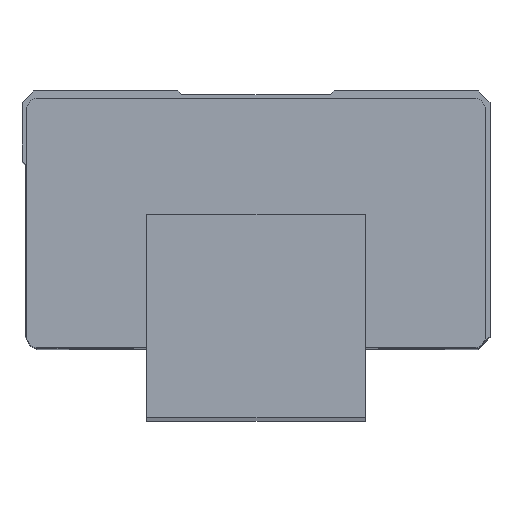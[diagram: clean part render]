
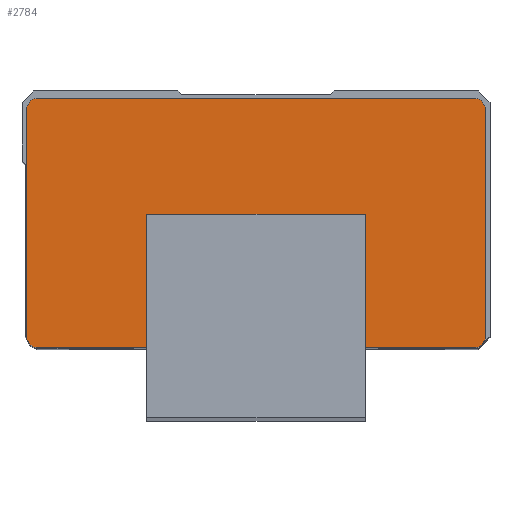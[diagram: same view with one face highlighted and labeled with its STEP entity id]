
A CAD part, top view. The second image highlights one B-rep face of the part: STEP entity #2784.
In plain terms, the highlighted planar face has unit normal (0, 0, 1).
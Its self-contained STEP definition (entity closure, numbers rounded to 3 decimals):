
#2390=CARTESIAN_POINT('',(-13.9,41.05,199.3));
#2391=VERTEX_POINT('',#2390);
#2392=CARTESIAN_POINT('',(41.908,41.05,199.3));
#2393=VERTEX_POINT('',#2392);
#2394=CARTESIAN_POINT('',(-13.9,41.05,199.3));
#2395=DIRECTION('',(1.0,0.0,0.0));
#2396=VECTOR('',#2395,1.0);
#2397=LINE('',#2394,#2396);
#2398=EDGE_CURVE('',#2391,#2393,#2397,.T.);
#2430=CARTESIAN_POINT('',(43.4,39.55,199.3));
#2431=VERTEX_POINT('',#2430);
#2432=CARTESIAN_POINT('',(41.9,39.55,199.3));
#2433=DIRECTION('',(0.,0.,-1.0));
#2434=DIRECTION('',(0.006,1.,0.));
#2435=AXIS2_PLACEMENT_3D('',#2432,#2433,#2434);
#2436=CIRCLE('',#2435,1.5);
#2437=EDGE_CURVE('',#2393,#2431,#2436,.T.);
#2463=CARTESIAN_POINT('',(43.4,10.55,199.3));
#2464=VERTEX_POINT('',#2463);
#2465=CARTESIAN_POINT('',(43.4,39.55,199.3));
#2466=DIRECTION('',(0.0,-1.0,0.0));
#2467=VECTOR('',#2466,1.0);
#2468=LINE('',#2465,#2467);
#2469=EDGE_CURVE('',#2431,#2464,#2468,.T.);
#2494=CARTESIAN_POINT('',(41.9,9.05,199.3));
#2495=VERTEX_POINT('',#2494);
#2496=CARTESIAN_POINT('',(41.9,10.55,199.3));
#2497=DIRECTION('',(0.0,0.0,-1.0));
#2498=DIRECTION('',(1.0,0.0,0.0));
#2499=AXIS2_PLACEMENT_3D('',#2496,#2497,#2498);
#2500=CIRCLE('',#2499,1.5);
#2501=EDGE_CURVE('',#2464,#2495,#2500,.T.);
#2527=CARTESIAN_POINT('',(28.,9.05,199.3));
#2528=VERTEX_POINT('',#2527);
#2529=CARTESIAN_POINT('',(41.9,9.05,199.3));
#2530=DIRECTION('',(-1.0,0.0,0.0));
#2531=VECTOR('',#2530,1.0);
#2532=LINE('',#2529,#2531);
#2533=EDGE_CURVE('',#2495,#2528,#2532,.T.);
#2558=CARTESIAN_POINT('',(28.,26.,199.3));
#2559=VERTEX_POINT('',#2558);
#2560=CARTESIAN_POINT('',(28.,9.05,199.3));
#2561=DIRECTION('',(0.0,1.0,0.0));
#2562=VECTOR('',#2561,1.);
#2563=LINE('',#2560,#2562);
#2564=EDGE_CURVE('',#2528,#2559,#2563,.T.);
#2589=CARTESIAN_POINT('',(0.,26.,199.3));
#2590=VERTEX_POINT('',#2589);
#2591=CARTESIAN_POINT('',(28.,26.,199.3));
#2592=DIRECTION('',(-1.0,0.0,0.0));
#2593=VECTOR('',#2592,1.0);
#2594=LINE('',#2591,#2593);
#2595=EDGE_CURVE('',#2559,#2590,#2594,.T.);
#2620=CARTESIAN_POINT('',(0.,9.05,199.3));
#2621=VERTEX_POINT('',#2620);
#2622=CARTESIAN_POINT('',(0.,26.,199.3));
#2623=DIRECTION('',(0.0,-1.0,0.0));
#2624=VECTOR('',#2623,1.0);
#2625=LINE('',#2622,#2624);
#2626=EDGE_CURVE('',#2590,#2621,#2625,.T.);
#2651=CARTESIAN_POINT('',(-13.9,9.05,199.3));
#2652=VERTEX_POINT('',#2651);
#2653=CARTESIAN_POINT('',(0.,9.05,199.3));
#2654=DIRECTION('',(-1.,0.,0.0));
#2655=VECTOR('',#2654,1.);
#2656=LINE('',#2653,#2655);
#2657=EDGE_CURVE('',#2621,#2652,#2656,.T.);
#2682=CARTESIAN_POINT('',(-15.4,10.55,199.3));
#2683=VERTEX_POINT('',#2682);
#2684=CARTESIAN_POINT('',(-13.9,10.55,199.3));
#2685=DIRECTION('',(0.,0.,-1.0));
#2686=DIRECTION('',(0.,-1.0,0.));
#2687=AXIS2_PLACEMENT_3D('',#2684,#2685,#2686);
#2688=CIRCLE('',#2687,1.5);
#2689=EDGE_CURVE('',#2652,#2683,#2688,.T.);
#2715=CARTESIAN_POINT('',(-15.4,39.55,199.3));
#2716=VERTEX_POINT('',#2715);
#2717=CARTESIAN_POINT('',(-15.4,10.55,199.3));
#2718=DIRECTION('',(0.0,1.0,0.0));
#2719=VECTOR('',#2718,1.0);
#2720=LINE('',#2717,#2719);
#2721=EDGE_CURVE('',#2683,#2716,#2720,.T.);
#2746=CARTESIAN_POINT('',(-13.9,39.55,199.3));
#2747=DIRECTION('',(0.,0.,-1.0));
#2748=DIRECTION('',(-1.0,0.,0.));
#2749=AXIS2_PLACEMENT_3D('',#2746,#2747,#2748);
#2750=CIRCLE('',#2749,1.5);
#2751=EDGE_CURVE('',#2716,#2391,#2750,.T.);
#2765=CARTESIAN_POINT('',(-18.34,7.45,199.3));
#2766=DIRECTION('',(0.0,0.0,1.0));
#2767=DIRECTION('',(1.0,0.0,0.0));
#2768=AXIS2_PLACEMENT_3D('',#2765,#2766,#2767);
#2769=PLANE('',#2768);
#2770=ORIENTED_EDGE('',*,*,#2398,.F.);
#2771=ORIENTED_EDGE('',*,*,#2751,.F.);
#2772=ORIENTED_EDGE('',*,*,#2721,.F.);
#2773=ORIENTED_EDGE('',*,*,#2689,.F.);
#2774=ORIENTED_EDGE('',*,*,#2657,.F.);
#2775=ORIENTED_EDGE('',*,*,#2626,.F.);
#2776=ORIENTED_EDGE('',*,*,#2595,.F.);
#2777=ORIENTED_EDGE('',*,*,#2564,.F.);
#2778=ORIENTED_EDGE('',*,*,#2533,.F.);
#2779=ORIENTED_EDGE('',*,*,#2501,.F.);
#2780=ORIENTED_EDGE('',*,*,#2469,.F.);
#2781=ORIENTED_EDGE('',*,*,#2437,.F.);
#2782=EDGE_LOOP('',(#2770,#2771,#2772,#2773,#2774,#2775,#2776,#2777,#2778,#2779,#2780,#2781));
#2783=FACE_OUTER_BOUND('',#2782,.T.);
#2784=ADVANCED_FACE('',(#2783),#2769,.T.);
